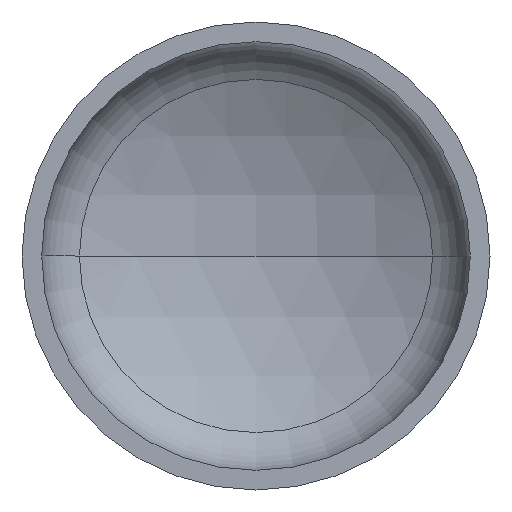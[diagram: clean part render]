
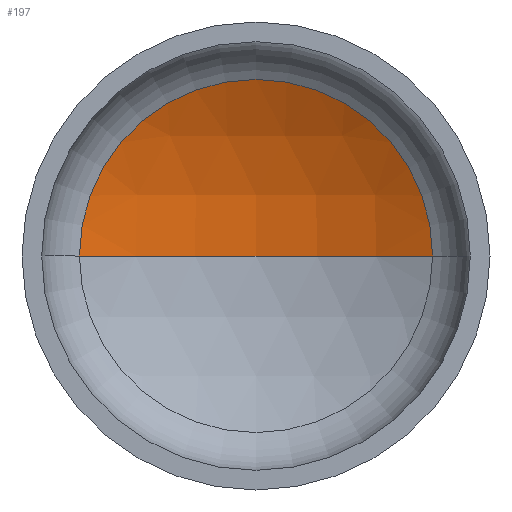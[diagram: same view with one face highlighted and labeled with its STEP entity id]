
A CAD part, front view. The second image highlights one B-rep face of the part: STEP entity #197.
In plain terms, the highlighted spherical face has radius 1520 mm.
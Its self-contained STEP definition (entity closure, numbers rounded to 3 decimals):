
#8 = DIRECTION ( 'NONE',  ( 1., 0., 0. ) ) ;
#10 = DIRECTION ( 'NONE',  ( 0., -1., 0. ) ) ;
#19 = EDGE_LOOP ( 'NONE', ( #153, #140, #57 ) ) ;
#23 = DIRECTION ( 'NONE',  ( -1., 0., 0. ) ) ;
#32 = AXIS2_PLACEMENT_3D ( 'NONE', #270, #235, #234 ) ;
#33 = AXIS2_PLACEMENT_3D ( 'NONE', #177, #198, #200 ) ;
#40 = AXIS2_PLACEMENT_3D ( 'NONE', #372, #10, #8 ) ;
#42 = AXIS2_PLACEMENT_3D ( 'NONE', #333, #280, #23 ) ;
#46 = CIRCLE ( 'NONE', #33, 1520. ) ;
#52 = VERTEX_POINT ( 'NONE', #237 ) ;
#57 = ORIENTED_EDGE ( 'NONE', *, *, #119, .T. ) ;
#119 = EDGE_CURVE ( 'NONE', #342, #52, #370, .T. ) ;
#121 = EDGE_CURVE ( 'NONE', #139, #342, #253, .T. ) ;
#122 = EDGE_CURVE ( 'NONE', #139, #52, #46, .T. ) ;
#139 = VERTEX_POINT ( 'NONE', #144 ) ;
#140 = ORIENTED_EDGE ( 'NONE', *, *, #121, .T. ) ;
#144 = CARTESIAN_POINT ( 'NONE',  ( 0., 555.334, 0. ) ) ;
#153 = ORIENTED_EDGE ( 'NONE', *, *, #122, .F. ) ;
#177 = CARTESIAN_POINT ( 'NONE',  ( 0., -964.666, 0. ) ) ;
#184 = SPHERICAL_SURFACE ( 'NONE', #32, 1520. ) ;
#197 = ADVANCED_FACE ( 'NONE', ( #365 ), #184, .F. ) ;
#198 = DIRECTION ( 'NONE',  ( 0., 0., 1. ) ) ;
#200 = DIRECTION ( 'NONE',  ( 1., 0., 0. ) ) ;
#234 = DIRECTION ( 'NONE',  ( -1., 0., 0. ) ) ;
#235 = DIRECTION ( 'NONE',  ( 0., 0., -1. ) ) ;
#237 = CARTESIAN_POINT ( 'NONE',  ( -716.748, 375.734, 0. ) ) ;
#253 = CIRCLE ( 'NONE', #42, 1520. ) ;
#270 = CARTESIAN_POINT ( 'NONE',  ( 0., -964.666, 0. ) ) ;
#280 = DIRECTION ( 'NONE',  ( 0., 0., -1. ) ) ;
#333 = CARTESIAN_POINT ( 'NONE',  ( 0., -964.666, 0. ) ) ;
#342 = VERTEX_POINT ( 'NONE', #359 ) ;
#359 = CARTESIAN_POINT ( 'NONE',  ( 716.748, 375.734, 0. ) ) ;
#365 = FACE_OUTER_BOUND ( 'NONE', #19, .T. ) ;
#370 = CIRCLE ( 'NONE', #40, 716.748 ) ;
#372 = CARTESIAN_POINT ( 'NONE',  ( 0., 375.734, 0. ) ) ;
